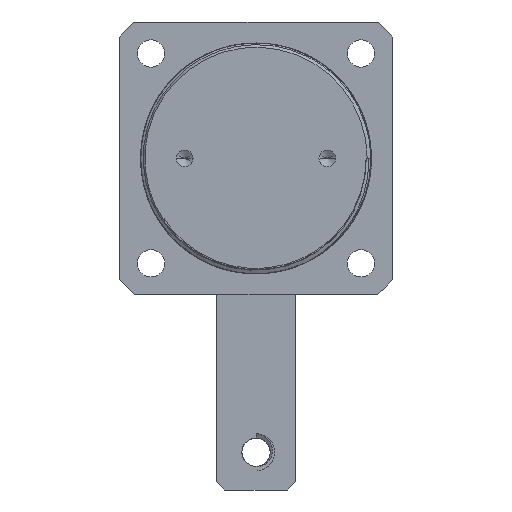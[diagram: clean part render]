
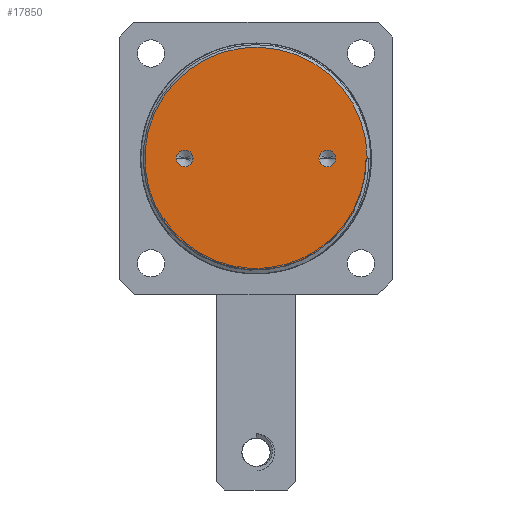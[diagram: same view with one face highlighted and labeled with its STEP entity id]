
A CAD part, front view. The second image highlights one B-rep face of the part: STEP entity #17850.
In plain terms, the highlighted planar face has unit normal (0, -1, 0).
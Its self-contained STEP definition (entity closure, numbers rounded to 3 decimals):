
#8355=DIRECTION('',(-1.,0.,0.));
#8356=VECTOR('',#8355,0.272);
#8357=CARTESIAN_POINT('',(26.5,-72.5,0.));
#8358=LINE('',#8357,#8356);
#8359=CARTESIAN_POINT('',(20.961,-72.5,-16.214));
#8360=CARTESIAN_POINT('',(21.58,-72.5,-15.388));
#8361=CARTESIAN_POINT('',(22.689,-72.5,-13.704));
#8362=CARTESIAN_POINT('',(23.994,-72.5,-11.151));
#8363=CARTESIAN_POINT('',(25.014,-72.5,-8.487));
#8364=CARTESIAN_POINT('',(25.746,-72.5,-5.703));
#8365=CARTESIAN_POINT('',(26.169,-72.5,-2.859));
#8366=CARTESIAN_POINT('',(26.243,-72.5,-0.956));
#8367=CARTESIAN_POINT('',(26.228,-72.5,0.));
#8369=CARTESIAN_POINT('',(17.,-72.5,0.));
#8370=DIRECTION('',(0.,1.,0.));
#8371=DIRECTION('',(1.,0.,0.));
#8372=AXIS2_PLACEMENT_3D('',#8369,#8370,#8371);
#8374=CARTESIAN_POINT('',(17.,-72.5,0.));
#8375=DIRECTION('',(0.,1.,0.));
#8376=DIRECTION('',(-1.,0.,0.));
#8377=AXIS2_PLACEMENT_3D('',#8374,#8375,#8376);
#8379=CARTESIAN_POINT('',(-17.,-72.5,0.));
#8380=DIRECTION('',(0.,-1.,0.));
#8381=DIRECTION('',(-1.,0.,0.));
#8382=AXIS2_PLACEMENT_3D('',#8379,#8380,#8381);
#8384=CARTESIAN_POINT('',(-17.,-72.5,0.));
#8385=DIRECTION('',(0.,-1.,0.));
#8386=DIRECTION('',(1.,0.,0.));
#8387=AXIS2_PLACEMENT_3D('',#8384,#8385,#8386);
#8397=CARTESIAN_POINT('',(0.,-72.5,0.));
#8398=DIRECTION('',(0.,-1.,0.));
#8399=DIRECTION('',(1.,0.,0.));
#8400=AXIS2_PLACEMENT_3D('',#8397,#8398,#8399);
#10370=CARTESIAN_POINT('',(26.5,-72.5,0.));
#10371=CARTESIAN_POINT('',(26.228,-72.5,0.));
#10372=VERTEX_POINT('',#10370);
#10373=VERTEX_POINT('',#10371);
#10374=VERTEX_POINT('',#8359);
#10590=CARTESIAN_POINT('',(19.,-72.5,0.));
#10591=CARTESIAN_POINT('',(15.,-72.5,0.));
#10592=VERTEX_POINT('',#10590);
#10593=VERTEX_POINT('',#10591);
#10600=CARTESIAN_POINT('',(-19.,-72.5,0.));
#10601=CARTESIAN_POINT('',(-15.,-72.5,0.));
#10602=VERTEX_POINT('',#10600);
#10603=VERTEX_POINT('',#10601);
#17826=CARTESIAN_POINT('',(0.,-72.5,0.));
#17827=DIRECTION('',(0.,-1.,0.));
#17828=DIRECTION('',(-1.,0.,0.));
#17829=AXIS2_PLACEMENT_3D('',#17826,#17827,#17828);
#17830=PLANE('',#17829);
#17832=ORIENTED_EDGE('',*,*,#17831,.T.);
#17833=ORIENTED_EDGE('',*,*,#17809,.F.);
#17835=ORIENTED_EDGE('',*,*,#17834,.F.);
#17836=EDGE_LOOP('',(#17832,#17833,#17835));
#17837=FACE_OUTER_BOUND('',#17836,.F.);
#17839=ORIENTED_EDGE('',*,*,#17838,.F.);
#17841=ORIENTED_EDGE('',*,*,#17840,.F.);
#17842=EDGE_LOOP('',(#17839,#17841));
#17843=FACE_BOUND('',#17842,.F.);
#17845=ORIENTED_EDGE('',*,*,#17844,.T.);
#17847=ORIENTED_EDGE('',*,*,#17846,.T.);
#17848=EDGE_LOOP('',(#17845,#17847));
#17849=FACE_BOUND('',#17848,.F.);
#17850=ADVANCED_FACE('',(#17837,#17843,#17849),#17830,.T.);
#8368=B_SPLINE_CURVE_WITH_KNOTS('',3,(#8359,#8360,#8361,#8362,#8363,#8364,#8365,
#8366,#8367),.UNSPECIFIED.,.F.,.F.,(4,1,1,1,1,1,4),(0.,0.167,
0.333,0.5,0.667,0.833,1.),
.UNSPECIFIED.);
#8373=CIRCLE('',#8372,2.);
#8378=CIRCLE('',#8377,2.);
#8383=CIRCLE('',#8382,2.);
#8388=CIRCLE('',#8387,2.);
#8401=CIRCLE('',#8400,26.5);
#17809=EDGE_CURVE('',#10374,#10373,#8368,.T.);
#17831=EDGE_CURVE('',#10372,#10373,#8358,.T.);
#17834=EDGE_CURVE('',#10372,#10374,#8401,.T.);
#17838=EDGE_CURVE('',#10592,#10593,#8373,.T.);
#17840=EDGE_CURVE('',#10593,#10592,#8378,.T.);
#17844=EDGE_CURVE('',#10602,#10603,#8383,.T.);
#17846=EDGE_CURVE('',#10603,#10602,#8388,.T.);
